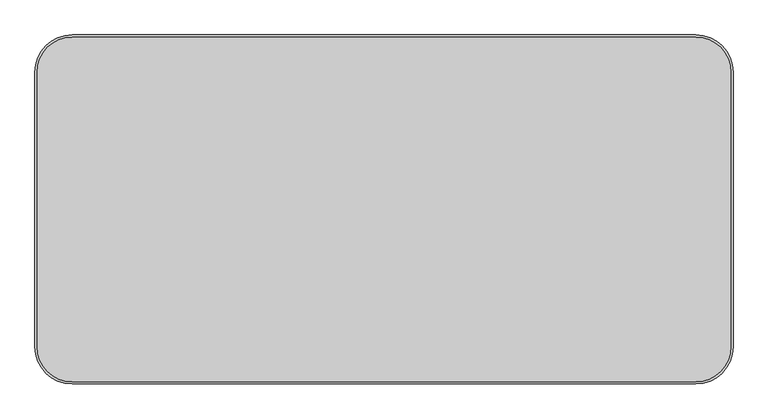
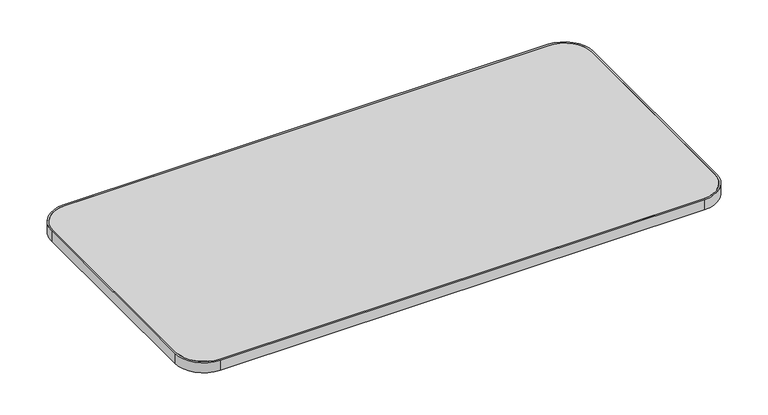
"""IFC4 building model written with IfcOpenShell, lengths in millimetres: furniture geometry, Steelcase - Answer Solution - Universal Table - Straight - 3mm Edge : 30D x 60W."""

from ifc_helpers import new_model, si_unit, point, frame, frame_2d, origin, place, context, project, spatial, polyline, circle_curve, trimmed, segment, composite_curve, outline, extrude, source, transform, mapped, element, save


def furniture_258b9b2a(model_context):
    return source(origin(), model_context, "Body", "SweptSolid", [
        extrude(outline(composite_curve([segment(polyline([(5.08, -680.72), (5.08, -81.28)]), True, "CONTINUOUS"), segment(trimmed(circle_curve(frame_2d((81.28, -81.28)), 76.2), [point((5.08, -81.28))], [point((81.28, -5.08))], False, "CARTESIAN"), True, "CONTINUOUS"), segment(polyline([(81.28, -5.08), (1442.72, -5.08)]), True, "CONTINUOUS"), segment(trimmed(circle_curve(frame_2d((1442.72, -81.28)), 76.2), [point((1442.72, -5.08))], [point((1518.92, -81.28))], False, "CARTESIAN"), True, "CONTINUOUS"), segment(polyline([(1518.92, -81.28), (1518.92, -680.72)]), True, "CONTINUOUS"), segment(trimmed(circle_curve(frame_2d((1442.72, -680.72)), 76.2), [point((1518.92, -680.72))], [point((1442.72, -756.92))], False, "CARTESIAN"), True, "CONTINUOUS"), segment(polyline([(1442.72, -756.92), (81.28, -756.92)]), True, "CONTINUOUS"), segment(trimmed(circle_curve(frame_2d((81.28, -680.72)), 76.2), [point((81.28, -756.92))], [point((5.08, -680.72))], False, "CARTESIAN"), True, "CONTINUOUS")], self_intersect=False)), frame((0.0, 0.0, 668.274), z_axis=(0.0, 0.0, 1.0), x_axis=(1.0, 0.0, 0.0)), (0.0, 0.0, 1.0), 30.0990349),
        extrude(outline(composite_curve([segment(polyline([(81.28, 0.0), (1442.72, 0.0)]), True, "CONTINUOUS"), segment(trimmed(circle_curve(frame_2d((1442.72, -81.28)), 81.28), [point((1442.72, 0.0))], [point((1524.0, -81.28))], False, "CARTESIAN"), True, "CONTINUOUS"), segment(polyline([(1524.0, -81.28), (1524.0, -680.72)]), True, "CONTINUOUS"), segment(trimmed(circle_curve(frame_2d((1442.72, -680.72)), 81.28), [point((1524.0, -680.72))], [point((1442.72, -762.0))], False, "CARTESIAN"), True, "CONTINUOUS"), segment(polyline([(1442.72, -762.0), (81.28, -762.0)]), True, "CONTINUOUS"), segment(trimmed(circle_curve(frame_2d((81.28, -680.72)), 81.28), [point((81.28, -762.0))], [point((0.0, -680.72))], False, "CARTESIAN"), True, "CONTINUOUS"), segment(polyline([(0.0, -680.72), (0.0, -81.28)]), True, "CONTINUOUS"), segment(trimmed(circle_curve(frame_2d((81.28, -81.28)), 81.28), [point((0.0, -81.28))], [point((81.28, 0.0))], False, "CARTESIAN"), True, "CONTINUOUS")], self_intersect=False), holes=[composite_curve([segment(trimmed(circle_curve(frame_2d((81.28, -81.28)), 76.2), [point((81.28, -5.08))], [point((5.08, -81.28))], True, "CARTESIAN"), True, "CONTINUOUS"), segment(polyline([(5.08, -81.28), (5.08, -680.72)]), True, "CONTINUOUS"), segment(trimmed(circle_curve(frame_2d((81.28, -680.72)), 76.2), [point((5.08, -680.72))], [point((81.28, -756.92))], True, "CARTESIAN"), True, "CONTINUOUS"), segment(polyline([(81.28, -756.92), (1442.72, -756.92)]), True, "CONTINUOUS"), segment(trimmed(circle_curve(frame_2d((1442.72, -680.72)), 76.2), [point((1442.72, -756.92))], [point((1518.92, -680.72))], True, "CARTESIAN"), True, "CONTINUOUS"), segment(polyline([(1518.92, -680.72), (1518.92, -81.28)]), True, "CONTINUOUS"), segment(trimmed(circle_curve(frame_2d((1442.72, -81.28)), 76.2), [point((1518.92, -81.28))], [point((1442.72, -5.08))], True, "CARTESIAN"), True, "CONTINUOUS"), segment(polyline([(1442.72, -5.08), (81.28, -5.08)]), True, "CONTINUOUS")], self_intersect=False)]), frame((0.0, 0.0, 668.274), z_axis=(0.0, 0.0, 1.0), x_axis=(1.0, 0.0, 0.0)), (0.0, 0.0, 1.0), 30.0990349),
    ])


if __name__ == "__main__":
    model = new_model("IFC4")
    model_context = context("Model", 3, world=origin())
    ifc_project = project(units=[si_unit("LENGTHUNIT", "METRE", prefix="MILLI")], contexts=[model_context])
    site = spatial("IfcSite", under=ifc_project)
    building = spatial("IfcBuilding", under=site)
    placement = place(None, origin())
    furniture_shape = furniture_258b9b2a(model_context)
    element("IfcFurniture", 1, ObjectType="Steelcase - Answer Solution - Universal Table - Straight - 3mm Edge : 30D x 60W", at=placement, inside=building, context=model_context, shape_type="MappedRepresentation", body=[
        mapped(furniture_shape, transform((0.0, 0.0, 0.0), x_axis=(1.0, 0.0, 0.0), y_axis=(0.0, 1.0, 0.0), z_axis=(0.0, 0.0, 1.0))),
    ])
    save(model, "model.ifc")
